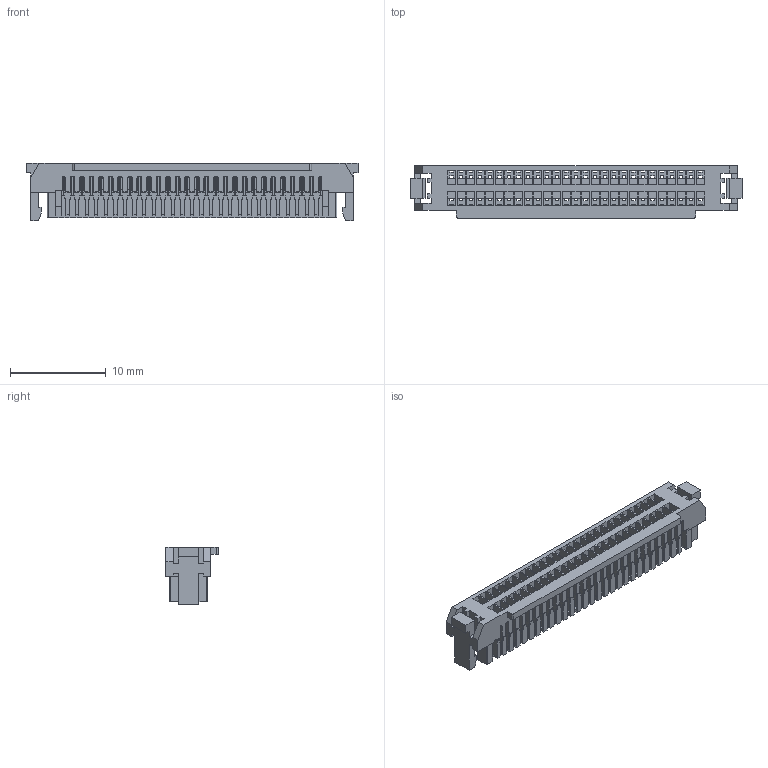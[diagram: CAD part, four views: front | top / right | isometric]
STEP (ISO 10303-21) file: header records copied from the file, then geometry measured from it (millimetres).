
FILE_DESCRIPTION(('CATIA V5 STEP Exchange'),'2;1');
FILE_NAME('F:\黄富鸿\条形连接器\1.00系列\11--SH25\NY\HC-SH25-2x27Y-05 (1.00 双排 带扣 孔座-HCTL).stp','2026-04-30T07:55:34+00:00',('none'),('none'),'CATIA Version 5 Release 20 GA (IN-10)','CATIA V5 STEP AP203','none');
FILE_SCHEMA(('CONFIG_CONTROL_DESIGN'));
Length unit declared in the file: millimetre
Products named in the file (1): Part2
Bounding box: 34.7 x 5.45 x 6 mm (x, y, z)
Volume: 327.4 mm3; surface area: 2137.8 mm2
Topology: 1 solids, 1 shells, 1906 faces, 5779 edges, 3709 vertices
Faces by surface type: plane 1684, cylinder 114, cone 108
Entity records: 56872 total; most frequent: ORIENTED_EDGE 11558, CARTESIAN_POINT 10342, DIRECTION 6915, EDGE_CURVE 5779, VECTOR 5117, LINE 5117, VERTEX_POINT 3709, EDGE_LOOP 1960
